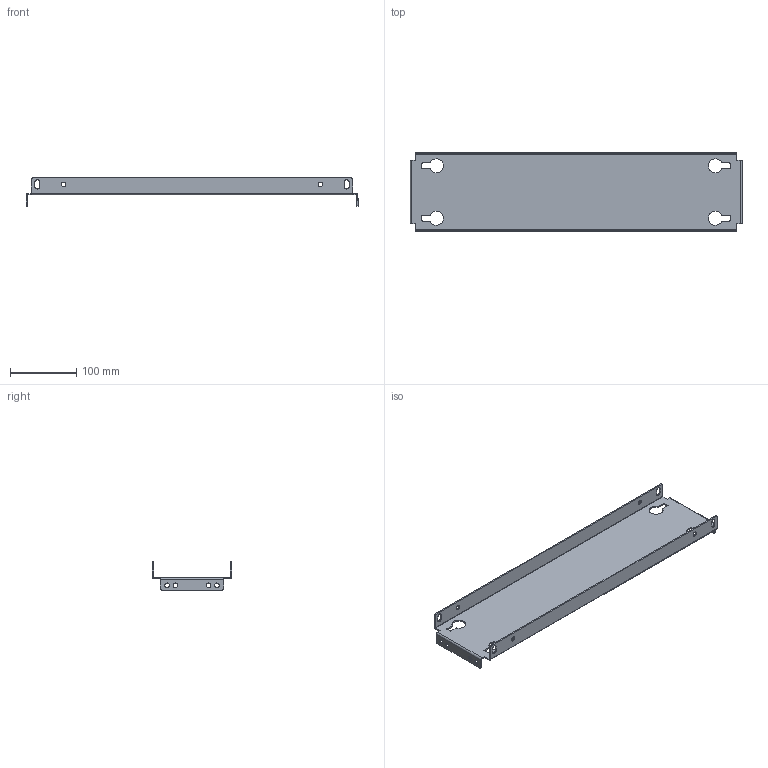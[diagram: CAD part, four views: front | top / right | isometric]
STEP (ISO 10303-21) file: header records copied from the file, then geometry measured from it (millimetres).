
FILE_DESCRIPTION (( 'STEP AP203' ), '1' );
FILE_NAME ('R5PPS1506.STEP', '2021-12-20T06:49:33', ( '' ), ( '' ), 'SwSTEP 2.0', 'SolidWorks 2020', '' );
FILE_SCHEMA (( 'CONFIG_CONTROL_DESIGN' ));
Length unit declared in the file: millimetre
Products named in the file (1): R5PPS1506
Bounding box: 500 x 119 x 43 mm (x, y, z)
Volume: 164350.5 mm3; surface area: 168653.4 mm2
Topology: 1 solids, 1 shells, 132 faces, 358 edges, 228 vertices
Faces by surface type: cylinder 74, plane 58
Entity records: 4331 total; most frequent: DIRECTION 772, CARTESIAN_POINT 719, ORIENTED_EDGE 716, EDGE_CURVE 358, AXIS2_PLACEMENT_3D 281, VERTEX_POINT 228, VECTOR 210, LINE 210
